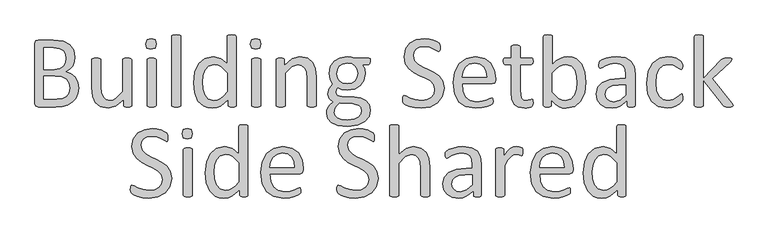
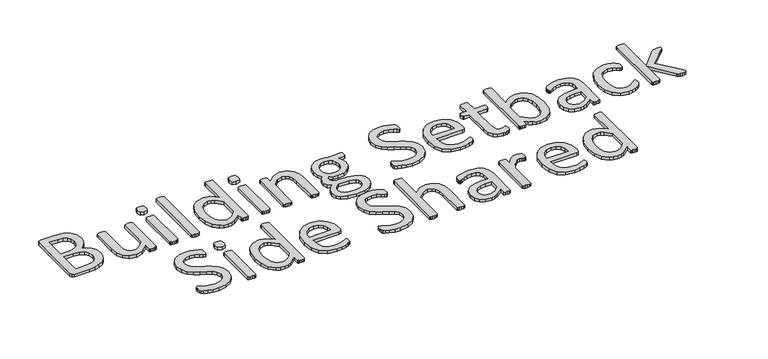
"""IFC4 building model written with IfcOpenShell, lengths in millimetres: proxy geometry, Marker-Setback Bldg Distance : Setback-Building-Side Shared."""

from ifc_helpers import new_model, si_unit, origin, origin_with_axes, place, context, project, spatial, polyline, outline, extrude, source, transform, mapped, element, save


def generic_models_37252d37(model_context):
    return source(origin(), model_context, "Body", "SweptSolid", [
        extrude(outline(polyline([(2948.652928, 103.9978258), (2946.2704862, 86.8080563), (2939.5755234, 72.6340358), (2929.2013467, 61.6265518), (2915.5098461, 53.6649743), (2899.1946438, 48.8397759), (2879.2907001, 47.2414289), (2827.2388718, 47.2414289), (2820.5740664, 49.6540281), (2817.4075299, 58.0981254), (2817.4075299, 237.1129882), (2820.6042239, 245.5570855), (2827.3595017, 247.9696848), (2872.9576272, 247.9696848), (2902.4818102, 244.5015734), (2921.6318166, 234.4289716), (2933.1821354, 218.2042418), (2937.0724517, 196.4606912), (2935.3534747, 182.6184031), (2930.3171738, 170.4046195), (2921.9333915, 160.3923327), (2910.3529152, 153.1545351), (2925.3110304, 147.5753993), (2937.4343416, 137.2313801), (2945.6371789, 122.5446823), (2948.652928, 103.9978258)]), holes=[polyline([(2910.0513403, 192.8417924), (2908.0307885, 206.1714031), (2901.6977155, 216.2741624), (2890.4188141, 222.6072354), (2871.9925875, 224.8087322), (2844.4286413, 224.8087322), (2844.4286413, 159.1860331), (2874.7670766, 159.1860331), (2891.4743262, 161.9303648), (2901.9992904, 169.2887924), (2908.1212609, 180.085174), (2910.0513403, 192.8417924)]), polyline([(2921.6318166, 103.7565658), (2918.7970125, 119.3178309), (2910.5037027, 130.5967323), (2896.812202, 137.5329551), (2876.0940062, 139.8852393), (2844.4286413, 139.8852393), (2844.4286413, 70.4023815), (2882.849284, 70.4023815), (2898.7121239, 72.5435633), (2910.6243326, 78.8766363), (2918.70654, 89.311128), (2921.6318166, 103.7565658)])]), origin_with_axes(), (0.0, 0.0, 1.0), 10.0),
        extrude(outline(polyline([(3106.9194374, 51.9459974), (3106.3464451, 49.8952881), (3104.3258932, 48.4477285), (3100.495892, 47.5430038), (3094.7358113, 47.2414289), (3088.5836833, 47.5430038), (3084.8441545, 48.4477285), (3082.9743901, 49.8952881), (3082.4918702, 51.9459974), (3082.4918702, 70.1008066), (3059.3610751, 49.7746581), (3036.23028, 43.3812701), (3013.1899574, 48.0255236), (2998.0508972, 60.6011971), (2989.7575873, 79.1178962), (2987.2545156, 104.8422355), (2987.2545156, 189.1625786), (2987.827508, 191.2132879), (2990.0290048, 192.7513199), (2994.2510534, 193.6862021), (3000.7650713, 193.927462), (3007.2790892, 193.6862021), (3011.4106654, 192.7814774), (3013.6121622, 191.2736029), (3014.275627, 189.1625786), (3014.275627, 109.0642841), (3015.9644465, 89.7333328), (3021.1515348, 77.3386043), (3029.957522, 69.3770268), (3042.382408, 66.5422227), (3051.527667, 68.2385816), (3060.6276897, 73.3276581), (3079.898326, 93.2617592), (3079.898326, 189.2228935), (3080.4713184, 191.2736029), (3082.6728152, 192.7814774), (3086.8345488, 193.6862021), (3093.4088817, 193.927462), (3099.9228996, 193.6862021), (3103.9941608, 192.7814774), (3106.1956576, 191.2736029), (3106.9194374, 189.2228935), (3106.9194374, 51.9459974)])), origin_with_axes(), (0.0, 0.0, 1.0), 10.0),
        extrude(outline(polyline([(3180.262454, 236.5701534), (3176.94513, 224.2357399), (3164.640874, 220.9485734), (3152.6381928, 224.1452674), (3149.3811838, 236.2082635), (3152.6985078, 248.5426771), (3165.0027639, 251.8298435), (3177.005445, 248.6331496), (3180.262454, 236.5701534)])), origin_with_axes(), (0.0, 0.0, 1.0), 10.0),
        extrude(outline(polyline([(3180.262454, 51.9459974), (3179.5989892, 49.8952881), (3177.4578074, 48.4477285), (3173.3865462, 47.5430038), (3166.6915833, 47.2414289), (3160.1172504, 47.5430038), (3155.9555167, 48.4477285), (3153.8143349, 49.8952881), (3153.2413426, 51.9459974), (3153.2413426, 189.2228935), (3153.8143349, 191.1831304), (3155.9555167, 192.7211624), (3160.1172504, 193.6258871), (3166.6915833, 193.927462), (3173.3865462, 193.6258871), (3177.4578074, 192.7211624), (3179.5989892, 191.1831304), (3180.262454, 189.2228935), (3180.262454, 51.9459974)])), origin_with_axes(), (0.0, 0.0, 1.0), 10.0),
        extrude(outline(polyline([(3253.6054705, 52.0063124), (3252.9420058, 49.955603), (3250.8008239, 48.477886), (3246.7295627, 47.5430038), (3240.0345999, 47.2414289), (3233.460267, 47.5430038), (3229.2985333, 48.477886), (3227.1573515, 49.955603), (3226.5843592, 52.0063124), (3226.5843592, 258.4644914), (3227.1573515, 260.6358307), (3229.2985333, 262.1738627), (3233.460267, 263.1087449), (3240.0345999, 263.4103198), (3246.7295627, 263.1087449), (3250.8008239, 262.1738627), (3252.9420058, 260.6358307), (3253.6054705, 258.4644914), (3253.6054705, 52.0063124)])), origin_with_axes(), (0.0, 0.0, 1.0), 10.0),
        extrude(outline(polyline([(3419.5922975, 52.0666274), (3419.0193052, 49.8651306), (3417.0590683, 48.3874135), (3413.410012, 47.5430038), (3407.8911913, 47.2414289), (3402.1612681, 47.5430038), (3398.4217393, 48.3270986), (3396.310715, 49.6841856), (3395.6472502, 51.7047375), (3395.6472502, 68.834192), (3373.2402348, 50.1063905), (3361.0792268, 45.0625502), (3347.8174704, 43.3812701), (3333.8545524, 44.8816053), (3322.1232887, 49.3826107), (3304.9033617, 65.6073405), (3295.2529647, 89.6730178), (3292.2070582, 118.774996), (3296.006902, 151.4958731), (3307.2254884, 176.4059601), (3325.6215575, 192.2386426), (3351.0141644, 197.7876208), (3372.9386599, 192.38943), (3392.5711861, 176.5567476), (3392.5711861, 258.4041764), (3393.1441785, 260.5152008), (3395.3456753, 262.0833903), (3399.5074089, 263.0182725), (3405.9007969, 263.4103198), (3412.5957598, 263.0182725), (3416.6670209, 262.0833903), (3418.8685177, 260.5453582), (3419.5922975, 258.4644914), (3419.5922975, 52.0666274)]), holes=[polyline([(3392.5711861, 149.0531164), (3373.2100773, 168.0824928), (3363.6652316, 172.9906243), (3353.7283386, 174.6266682), (3337.7448687, 170.0427297), (3327.0691171, 157.949576), (3321.097934, 140.9407515), (3319.2281696, 121.6701151), (3320.7963591, 101.2836516), (3326.2548648, 83.6113623), (3336.5687265, 71.2166337), (3352.7029839, 66.5422227), (3362.1724359, 67.8993098), (3371.5212579, 72.3927759), (3381.5033872, 80.5352983), (3392.5711861, 92.8998693), (3392.5711861, 149.0531164)])]), origin_with_axes(), (0.0, 0.0, 1.0), 10.0),
        extrude(outline(polyline([(3492.9353141, 236.5701534), (3489.6179901, 224.2357399), (3477.3137341, 220.9485734), (3465.3110529, 224.1452674), (3462.0540439, 236.2082635), (3465.3713679, 248.5426771), (3477.675624, 251.8298435), (3489.6783051, 248.6331496), (3492.9353141, 236.5701534)])), origin_with_axes(), (0.0, 0.0, 1.0), 10.0),
        extrude(outline(polyline([(3492.9353141, 51.9459974), (3492.2718493, 49.8952881), (3490.1306675, 48.4477285), (3486.0594063, 47.5430038), (3479.3644434, 47.2414289), (3472.7901105, 47.5430038), (3468.6283768, 48.4477285), (3466.487195, 49.8952881), (3465.9142027, 51.9459974), (3465.9142027, 189.2228935), (3466.487195, 191.1831304), (3468.6283768, 192.7211624), (3472.7901105, 193.6258871), (3479.3644434, 193.927462), (3486.0594063, 193.6258871), (3490.1306675, 192.7211624), (3492.2718493, 191.1831304), (3492.9353141, 189.2228935), (3492.9353141, 51.9459974)])), origin_with_axes(), (0.0, 0.0, 1.0), 10.0),
        extrude(outline(polyline([(3658.922141, 52.0063124), (3658.2586763, 49.955603), (3656.1174944, 48.477886), (3652.0462332, 47.5430038), (3645.4719003, 47.2414289), (3638.7769375, 47.5430038), (3634.7056763, 48.4477285), (3632.5644945, 49.8952881), (3631.9010297, 52.0063124), (3631.9010297, 132.5871266), (3630.1217378, 151.5260306), (3624.9648069, 163.9207591), (3616.1889772, 171.8823366), (3603.7339337, 174.6266682), (3585.428337, 167.9015478), (3566.2783306, 148.1483917), (3566.2783306, 52.0063124), (3565.6148659, 49.8952881), (3563.473684, 48.4477285), (3559.4024228, 47.5430038), (3552.70746, 47.2414289), (3546.1331271, 47.5430038), (3541.9713934, 48.4477285), (3539.8302116, 49.8952881), (3539.2572193, 51.9459974), (3539.2572193, 189.2228935), (3539.7397391, 191.2736029), (3541.699976, 192.7814774), (3545.4696623, 193.6862021), (3551.5614754, 193.927462), (3557.5326584, 193.6862021), (3561.2118723, 192.7814774), (3563.1117942, 191.2736029), (3563.6847865, 189.2228935), (3563.6847865, 171.0680843), (3586.7552666, 191.3640754), (3609.9463767, 197.7876208), (3632.9866993, 193.0830523), (3648.1257595, 180.5073788), (3656.4190693, 162.0811522), (3658.922141, 136.6885453), (3658.922141, 52.0063124)])), origin_with_axes(), (0.0, 0.0, 1.0), 10.0),
        extrude(outline(polyline([(3821.0488092, 184.2167501), (3819.5710922, 176.88848), (3815.8014059, 174.6266682), (3795.8371473, 174.6266682), (3803.4368349, 162.1414672), (3805.6081742, 147.9674467), (3801.7480154, 126.4953136), (3790.6802165, 110.6927886), (3773.5507619, 100.8312893), (3751.5659514, 97.4234929), (3735.3713791, 99.6853046), (3723.5194854, 105.3850703), (3718.694287, 99.0821548), (3716.8245225, 90.9094749), (3721.9512959, 81.9828578), (3735.5824816, 78.122699), (3772.6158797, 76.5545095), (3792.0373035, 73.629233), (3807.3271511, 66.1803328), (3817.4299104, 54.3284391), (3821.0488092, 38.0132368), (3817.0077055, 19.3457503), (3804.612977, 3.7844853), (3783.3217888, -6.8007938), (3752.7722511, -10.6609526), (3723.8512178, -7.7658335), (3704.309164, 0.135429), (3693.2413651, 12.1079526), (3689.8034112, 27.1565403), (3691.0398683, 37.1989846), (3694.8397121, 46.4271767), (3701.1727851, 54.7808015), (3709.8882998, 62.682064), (3697.6443587, 72.6038783), (3693.6635699, 85.5414417), (3697.7649886, 102.7010537), (3707.8979054, 116.2417669), (3700.2982178, 129.2094877), (3697.5237287, 146.7611471), (3701.5346749, 168.2031228), (3712.6929464, 184.2469076), (3729.8224009, 194.2893519), (3751.5659514, 197.7876208), (3763.3876877, 196.7622661), (3773.7015494, 193.927462), (3815.8014059, 193.927462), (3819.7218797, 191.5450203), (3821.0488092, 184.2167501)]), holes=[polyline([(3782.4472216, 147.7865018), (3780.411591, 160.6712895), (3774.3046992, 170.3744621), (3764.4431998, 176.4587357), (3751.1437466, 178.486827), (3737.6935059, 175.9535978), (3728.1637389, 169.017375), (3722.5242882, 158.8543007), (3720.6846813, 146.8214621), (3722.7203119, 134.2759461), (3728.8272037, 124.7461791), (3738.5982306, 118.7297598), (3751.6262664, 116.7242867), (3765.3479245, 119.1670434), (3774.968164, 125.9524788), (3780.6076147, 135.9647656), (3782.4472216, 147.7865018)]), polyline([(3794.0276979, 37.1688271), (3792.1579335, 45.6657), (3786.5486403, 51.9761549), (3766.3431217, 57.4949756), (3729.6716134, 58.8219052), (3721.3783036, 50.9809577), (3716.2515302, 43.86379), (3713.6579861, 37.1989846), (3712.9643638, 30.4135493), (3715.557908, 20.9817942), (3723.3385405, 14.158662), (3735.7634265, 10.0195464), (3752.2897312, 8.6398412), (3772.0730449, 11.022283), (3784.9201358, 17.3855134), (3791.9166736, 26.462918), (3794.0276979, 37.1688271)])]), origin_with_axes(), (0.0, 0.0, 1.0), 10.0),
        extrude(outline(polyline([(4041.077859, 103.153416), (4035.8907706, 77.8211241), (4021.4453327, 58.9726927), (3999.7017822, 47.3017439), (3972.8013008, 43.3812701), (3954.1036567, 44.8891447), (3938.7233367, 48.598516), (3927.3841203, 53.152297), (3921.0208898, 57.1632432), (3918.3971881, 61.8074967), (3917.5527784, 69.7389167), (3917.8543533, 75.6196273), (3918.7892355, 79.3893136), (3920.357425, 81.4098655), (3922.5589218, 81.9828578), (3928.7412073, 79.5702586), (3939.0249116, 74.3228552), (3954.1338142, 69.0151369), (3974.5504352, 66.5422227), (3990.6243776, 68.894507), (4003.1397361, 75.5291549), (4011.2219435, 86.0239615), (4014.0567476, 100.197982), (4010.0759589, 114.9148373), (3999.6113097, 125.6207464), (3984.8039819, 134.0648437), (3967.7348424, 141.9057912), (3950.7561753, 150.7419358), (3936.0091625, 162.1414672), (3925.4540409, 177.5821023), (3921.4129372, 198.7526605), (3926.0270332, 221.4009358), (3938.8439666, 238.0478704), (3958.3860204, 248.3014172), (3982.8739025, 251.8298435), (3996.4146157, 250.5330714), (4009.2315491, 247.0951175), (4019.9676157, 242.3000766), (4026.1499012, 238.0177129), (4028.0799806, 235.5146412), (4028.8640754, 233.282987), (4029.3465952, 229.9958205), (4029.4973827, 225.0499921), (4029.2561227, 219.9232187), (4028.5625004, 216.1836899), (4027.2355709, 213.9520356), (4025.275334, 213.2282559), (4019.8469857, 215.5805401), (4010.7997386, 220.8581009), (3998.1335927, 226.2261342), (3981.7279179, 228.6688909), (3966.9809051, 226.4673941), (3956.6067284, 220.616841), (3950.4847579, 211.9314838), (3948.4340486, 201.2858897), (3952.3545223, 186.7499793), (3962.8191715, 175.9535978), (3977.6868142, 167.3285555), (3994.6654813, 159.4272931), (4011.6743058, 150.6514634), (4026.5419486, 139.372562), (4037.0669127, 124.0525569), (4041.077859, 103.153416)])), origin_with_axes(), (0.0, 0.0, 1.0), 10.0),
        extrude(outline(polyline([(4195.4842096, 127.7619282), (4192.4986181, 119.2575159), (4185.6528678, 116.7242867), (4095.1200817, 116.7242867), (4097.3818935, 94.4077438), (4104.8911086, 77.3989193), (4118.5826092, 66.4819078), (4139.2103326, 62.682064), (4156.3397871, 64.4613559), (4169.367823, 68.4723021), (4178.3849126, 72.4832483), (4183.7227884, 74.2625403), (4185.5925528, 73.7498629), (4186.8893249, 72.2419884), (4187.5527897, 69.4373418), (4187.7638921, 65.0343482), (4187.6131046, 61.8074967), (4187.2210573, 59.36474), (4186.46712, 57.4045032), (4185.1100329, 55.7458412), (4180.194362, 52.8205646), (4169.6090829, 48.6588309), (4154.5303377, 45.0097746), (4136.2548985, 43.3812701), (4106.7910305, 48.2064686), (4085.5299997, 62.561434), (4072.5019639, 86.4763239), (4068.0989703, 119.8606657), (4072.7130663, 152.4307553), (4086.0125196, 176.9186375), (4107.0021329, 192.38943), (4134.5660791, 197.7876208), (4162.3109702, 192.570375), (4181.1594017, 178.5169845), (4192.0160982, 157.7987886), (4195.4842096, 132.4061817), (4195.4842096, 127.7619282)]), holes=[polyline([(4168.4630983, 136.0250805), (4166.5104008, 153.7350668), (4159.8078985, 167.1777681), (4148.5214577, 175.6595622), (4132.8169446, 178.486827), (4116.7430023, 174.9885581), (4105.1926835, 165.6698936), (4097.9850433, 152.1291804), (4095.1200817, 136.0250805), (4168.4630983, 136.0250805)])]), origin_with_axes(), (0.0, 0.0, 1.0), 10.0),
        extrude(outline(polyline([(4307.4288139, 61.1138745), (4306.825664, 53.5745019), (4304.9860571, 49.4730832), (4301.3068433, 47.000169), (4295.7277076, 45.1002471), (4289.0629022, 43.86379), (4282.036207, 43.3812701), (4263.6702953, 46.3065467), (4251.1549368, 55.1426914), (4244.0377691, 70.1309641), (4241.8061148, 91.5729397), (4241.8061148, 174.6266682), (4223.4703607, 174.6266682), (4219.9419343, 176.88848), (4218.6451622, 184.2167501), (4219.0070521, 188.7102162), (4219.9419343, 191.7561227), (4221.4799663, 193.4449422), (4223.5909906, 193.927462), (4241.8061148, 193.927462), (4241.8061148, 227.5229063), (4242.3791071, 229.5434582), (4244.520289, 231.2021201), (4248.6820226, 232.2274748), (4255.2563555, 232.5290497), (4261.9513184, 232.2274748), (4266.0225796, 231.2021201), (4268.1637614, 229.5434582), (4268.8272262, 227.5229063), (4268.8272262, 193.927462), (4302.6036154, 193.927462), (4304.6241672, 193.4449422), (4306.1621993, 191.7561227), (4307.1272389, 188.7102162), (4307.4288139, 184.2167501), (4306.1018843, 176.88848), (4302.6036154, 174.6266682), (4268.8272262, 174.6266682), (4268.8272262, 95.9759333), (4272.8381724, 73.9911229), (4278.4399262, 68.4044478), (4287.2232953, 66.5422227), (4293.2246359, 67.235845), (4297.8990469, 68.6834045), (4301.4274733, 70.1611216), (4304.0511749, 70.8849013), (4306.4637742, 69.0151369), (4307.1272389, 65.9993879), (4307.4288139, 61.1138745)])), origin_with_axes(), (0.0, 0.0, 1.0), 10.0),
        extrude(outline(polyline([(4465.6953233, 122.3938949), (4461.8351645, 89.5222304), (4450.4657907, 64.6121434), (4432.0094065, 48.8397759), (4406.9485321, 43.3812701), (4394.8855359, 44.7081997), (4384.0288394, 49.0207208), (4373.4134028, 56.5299359), (4362.1948164, 67.4469474), (4362.1948164, 51.7047375), (4361.5313516, 49.6841856), (4359.3901698, 48.3270986), (4355.7109559, 47.5430038), (4350.0715052, 47.2414289), (4344.522527, 47.5430038), (4340.7528407, 48.3874135), (4338.7926038, 49.8651306), (4338.310084, 52.0063124), (4338.310084, 258.4644914), (4338.8830763, 260.6358307), (4341.0242581, 262.1738627), (4345.1859918, 263.1087449), (4351.7603247, 263.4103198), (4358.4552875, 263.1087449), (4362.5265487, 262.1738627), (4364.6677306, 260.6056732), (4365.3311954, 258.4644914), (4365.3311954, 174.6869832), (4377.0624591, 185.4532072), (4388.190573, 192.570375), (4399.0774271, 196.5511637), (4410.5674309, 197.7876208), (4424.3267859, 196.2646675), (4435.9298803, 191.6958077), (4453.0593348, 175.3806055), (4462.6795742, 151.4054006), (4465.6953233, 122.3938949)]), holes=[polyline([(4438.6742119, 119.4384608), (4437.1060224, 139.9757118), (4431.6173592, 157.6178436), (4421.27334, 169.9522572), (4405.1993976, 174.6266682), (4395.7902606, 173.2695811), (4386.3509661, 168.7459576), (4376.3688368, 160.6335927), (4365.3311954, 148.1483917), (4365.3311954, 92.1157746), (4384.8129341, 73.0863981), (4394.2974648, 68.1782666), (4404.1740429, 66.5422227), (4420.0670404, 71.1563188), (4430.8031069, 83.3399449), (4436.8044475, 100.3487694), (4438.6742119, 119.4384608)])]), origin_with_axes(), (0.0, 0.0, 1.0), 10.0),
        extrude(outline(polyline([(4612.3813564, 51.8856824), (4611.0544268, 49.0810358), (4607.435528, 47.6937913), (4600.6802502, 47.2414289), (4593.8344998, 47.6937913), (4590.1251285, 49.0810358), (4588.9791439, 51.8856824), (4588.9791439, 65.758128), (4568.6529954, 49.7143431), (4557.1026766, 44.9645384), (4544.888893, 43.3812701), (4524.9547919, 46.2462317), (4509.7855742, 54.5395416), (4500.0447048, 67.8691523), (4496.5765934, 85.8430166), (4501.3716344, 106.289795), (4515.12345, 120.7050754), (4537.0479455, 129.2999602), (4566.2403962, 132.1649218), (4585.3602451, 132.1649218), (4585.3602451, 143.6850831), (4583.6714256, 158.7638283), (4578.2430773, 169.6808398), (4568.5625229, 176.2551727), (4553.9361401, 178.486827), (4537.1987329, 176.0742277), (4524.2310121, 170.7665094), (4514.9123476, 165.4587911), (4509.3633693, 163.0461919), (4507.19203, 163.6794992), (4505.593683, 165.6095786), (4504.5984859, 168.9269025), (4504.296911, 173.3600536), (4504.8397458, 179.6931266), (4507.4936049, 184.1262777), (4514.7314026, 188.6499012), (4526.5531388, 193.1132098), (4541.1795217, 196.4606912), (4557.1931491, 197.7876208), (4582.8270159, 194.3798244), (4599.9263129, 184.4278526), (4609.4259224, 168.1729653), (4612.3813564, 145.4945325), (4612.3813564, 51.8856824)]), holes=[polyline([(4585.3602451, 112.8641279), (4563.8881119, 112.8641279), (4545.9745626, 111.084836), (4533.3385742, 105.8374327), (4525.949989, 97.5139653), (4523.5977048, 86.3255364), (4525.2865242, 76.584667), (4530.3529826, 69.0754519), (4538.4653475, 64.280411), (4549.2918866, 62.682064), (4567.6276407, 67.7786798), (4585.3602451, 83.3701024), (4585.3602451, 112.8641279)])]), origin_with_axes(), (0.0, 0.0, 1.0), 10.0),
        extrude(outline(polyline([(4755.2072308, 74.98632), (4755.0564433, 70.7642714), (4754.5136085, 67.7485223), (4753.6088838, 65.3057656), (4751.1962846, 61.6868668), (4744.7124241, 55.8061562), (4734.4287199, 49.5635557), (4722.0339914, 45.1002471), (4708.1615458, 43.3812701), (4681.9848442, 48.3874135), (4662.8951528, 63.0137964), (4651.163889, 86.5969538), (4647.1227853, 118.835311), (4652.0686137, 154.5719371), (4665.6093269, 179.0296618), (4685.8450029, 193.1735248), (4711.0566649, 197.7876208), (4723.7831258, 196.4305337), (4735.1223422, 192.8719499), (4744.3505343, 187.8054915), (4750.2010874, 182.8898206), (4752.7041591, 179.6629691), (4753.8501437, 177.0995824), (4754.4532935, 173.9330459), (4754.604081, 169.4998948), (4753.2469939, 161.4780024), (4749.9598275, 159.1860331), (4744.7425816, 161.5986324), (4737.2936815, 166.9063507), (4726.3465125, 172.214069), (4711.2376098, 174.6266682), (4695.3672305, 171.1283993), (4683.7038211, 160.6335927), (4676.5338778, 143.4739807), (4674.1438967, 119.9812957), (4676.6168109, 96.6393981), (4683.9149236, 79.8718335), (4695.7668173, 69.8293892), (4711.8407596, 66.5422227), (4726.8893473, 69.5881293), (4738.1079338, 76.2830921), (4746.0996687, 82.8875825), (4751.1661271, 85.8430166), (4752.945419, 85.2700243), (4754.2421911, 83.3399449), (4754.9961284, 79.901991), (4755.2072308, 74.98632)])), origin_with_axes(), (0.0, 0.0, 1.0), 10.0),
        extrude(outline(polyline([(4905.7534227, 52.1269423), (4905.1201154, 49.9857605), (4903.0392486, 48.4477285), (4898.9679874, 47.5430038), (4892.303182, 47.2414289), (4885.4272742, 47.4826888), (4880.8433356, 48.2366261), (4877.8275866, 49.7445006), (4875.7165623, 52.1269423), (4816.9697711, 128.0635031), (4816.9697711, 51.9459974), (4816.3063063, 49.8952881), (4814.1651244, 48.4477285), (4810.0938633, 47.5430038), (4803.3989004, 47.2414289), (4796.8245675, 47.5430038), (4792.6628338, 48.477886), (4790.521652, 49.955603), (4789.9486597, 52.0063124), (4789.9486597, 258.4644914), (4790.521652, 260.6358307), (4792.6628338, 262.1738627), (4796.8245675, 263.1087449), (4803.3989004, 263.4103198), (4810.0938633, 263.1087449), (4814.1651244, 262.1738627), (4816.3063063, 260.6056732), (4816.9697711, 258.4041764), (4816.9697711, 131.561772), (4870.6501039, 188.6197437), (4873.3341205, 191.1228154), (4876.7117595, 192.7814774), (4881.356013, 193.6862021), (4887.8398734, 193.927462), (4894.4745213, 193.6862021), (4898.7870424, 192.9322649), (4901.1694842, 191.5751778), (4901.8932639, 189.3435235), (4900.8377518, 185.6944672), (4897.3093254, 181.442261), (4843.9908824, 131.7427169), (4901.9535789, 59.304425), (4904.8788555, 55.1125339), (4905.7534227, 52.1269423)])), origin_with_axes(), (0.0, 0.0, 1.0), 10.0),
        extrude(outline(polyline([(3226.5843592, -166.3294418), (3221.3972708, -191.6617337), (3206.951833, -210.5101651), (3185.2082824, -222.1811139), (3158.307801, -226.1015877), (3139.610157, -224.5937131), (3124.2298369, -220.8843418), (3112.8906205, -216.3305608), (3106.52739, -212.3196146), (3103.9036884, -207.6753611), (3103.0592786, -199.7439411), (3103.3608536, -193.8632305), (3104.2957358, -190.0935442), (3105.8639253, -188.0729923), (3108.065422, -187.5), (3114.2477076, -189.9125992), (3124.5314118, -195.1600026), (3139.6403145, -200.4677209), (3160.0569354, -202.9406351), (3176.1308778, -200.5883508), (3188.6462363, -193.9537029), (3196.7284437, -183.4588963), (3199.5632478, -169.2848758), (3195.5824591, -154.5680205), (3185.1178099, -143.8621114), (3170.3104822, -135.4180141), (3153.2413426, -127.5770666), (3136.2626755, -118.740922), (3121.5156628, -107.3413906), (3110.9605411, -91.9007555), (3106.9194374, -70.7301973), (3111.5335334, -48.081922), (3124.3504668, -31.4349874), (3143.8925206, -21.1814406), (3168.3804028, -17.6530143), (3181.921116, -18.9497864), (3194.7380494, -22.3877403), (3205.4741159, -27.1827812), (3211.6564015, -31.4651449), (3213.5864808, -33.9682166), (3214.3705756, -36.1998708), (3214.8530954, -39.4870373), (3215.0038829, -44.4328657), (3214.762623, -49.5596391), (3214.0690007, -53.2991679), (3212.7420711, -55.5308222), (3210.7818342, -56.2546019), (3205.353486, -53.9023177), (3196.3062389, -48.6247569), (3183.6400929, -43.2567236), (3167.2344181, -40.8139669), (3152.4874054, -43.0154637), (3142.1132287, -48.8660168), (3135.9912581, -57.551374), (3133.9405488, -68.1969681), (3137.8610225, -82.7328785), (3148.3256717, -93.52926), (3163.1933144, -102.1543023), (3180.1719815, -110.0555647), (3197.1808061, -118.8313944), (3212.0484488, -130.1102958), (3222.573413, -145.4303009), (3226.5843592, -166.3294418)])), origin_with_axes(), (0.0, 0.0, 1.0), 10.0),
        extrude(outline(polyline([(3288.3468994, -217.5368604), (3287.6834347, -219.5875697), (3285.5422528, -221.0351293), (3281.4709916, -221.939854), (3274.7760288, -222.2414289), (3268.2016959, -221.939854), (3264.0399622, -221.0351293), (3261.8987804, -219.5875697), (3261.3257881, -217.5368604), (3261.3257881, -80.2599643), (3261.8987804, -78.2997274), (3264.0399622, -76.7616954), (3268.2016959, -75.8569707), (3274.7760288, -75.5553958), (3281.4709916, -75.8569707), (3285.5422528, -76.7616954), (3287.6834347, -78.2997274), (3288.3468994, -80.2599643), (3288.3468994, -217.5368604)])), origin_with_axes(), (0.0, 0.0, 1.0), 10.0),
        extrude(outline(polyline([(3288.3468994, -32.9127044), (3285.0295755, -45.2471179), (3272.7253194, -48.5342844), (3260.7226383, -45.3375904), (3257.4656293, -33.2745943), (3260.7829533, -20.9401807), (3273.0872093, -17.6530143), (3285.0898905, -20.8497082), (3288.3468994, -32.9127044)])), origin_with_axes(), (0.0, 0.0, 1.0), 10.0),
        extrude(outline(polyline([(3454.3337264, -217.4162304), (3453.7607341, -219.6177272), (3451.8004972, -221.0954443), (3448.1514409, -221.939854), (3442.6326202, -222.2414289), (3436.902697, -221.939854), (3433.1631682, -221.1557592), (3431.0521439, -219.7986722), (3430.3886791, -217.7781203), (3430.3886791, -200.6486658), (3407.9816637, -219.3764673), (3395.8206557, -224.4203076), (3382.5588993, -226.1015877), (3368.5959813, -224.6012525), (3356.8647176, -220.1002471), (3339.6447906, -203.8755173), (3329.9943936, -179.80984), (3326.9484871, -150.7078618), (3330.7483309, -117.9869847), (3341.9669173, -93.0768977), (3360.3629864, -77.2442152), (3385.7555933, -71.695237), (3407.6800888, -77.0934278), (3427.312615, -92.9261102), (3427.312615, -11.0786814), (3427.8856074, -8.967657), (3430.0871042, -7.3994675), (3434.2488378, -6.4645853), (3440.6422258, -6.072538), (3447.3371887, -6.4645853), (3451.4084498, -7.3994675), (3453.6099466, -8.9374996), (3454.3337264, -11.0183664), (3454.3337264, -217.4162304)]), holes=[polyline([(3427.312615, -120.4297414), (3407.9515062, -101.400365), (3398.4066605, -96.4922335), (3388.4697675, -94.8561896), (3372.4862976, -99.4401281), (3361.810546, -111.5332818), (3355.8393629, -128.5421063), (3353.9695985, -147.8127427), (3355.537788, -168.1992062), (3360.9962937, -185.8714955), (3371.3101554, -198.2662241), (3387.4444128, -202.9406351), (3396.9138648, -201.583548), (3406.2626868, -197.0900819), (3416.2448161, -188.9475595), (3427.312615, -176.5829885), (3427.312615, -120.4297414)])]), origin_with_axes(), (0.0, 0.0, 1.0), 10.0),
        extrude(outline(polyline([(3620.3205534, -141.7209296), (3617.3349618, -150.2253419), (3610.4892115, -152.7585711), (3519.9564254, -152.7585711), (3522.2182372, -175.075114), (3529.7274523, -192.0839385), (3543.418953, -203.00095), (3564.0466764, -206.8007938), (3581.1761309, -205.0215019), (3594.2041667, -201.0105557), (3603.2212563, -196.9996095), (3608.5591321, -195.2203175), (3610.4288965, -195.7329949), (3611.7256686, -197.2408694), (3612.3891334, -200.045516), (3612.6002358, -204.4485096), (3612.4494484, -207.6753611), (3612.057401, -210.1181178), (3611.3034638, -212.0783546), (3609.9463767, -213.7370166), (3605.0307058, -216.6622932), (3594.4454266, -220.8240269), (3579.3666815, -224.4730832), (3561.0912423, -226.1015877), (3531.6273742, -221.2763892), (3510.3663435, -206.9214238), (3497.3383077, -183.0065339), (3492.9353141, -149.6221921), (3497.5494101, -117.0521025), (3510.8488634, -92.5642203), (3531.8384767, -77.0934278), (3559.4024228, -71.695237), (3587.147314, -76.9124828), (3605.9957455, -90.9658733), (3616.852442, -111.6840692), (3620.3205534, -137.0766761), (3620.3205534, -141.7209296)]), holes=[polyline([(3593.299442, -133.4577773), (3591.3467445, -115.747791), (3584.6442423, -102.3050897), (3573.3578015, -93.8232956), (3557.6532884, -90.9960308), (3541.579346, -94.4942997), (3530.0290272, -103.8129642), (3522.821387, -117.3536774), (3519.9564254, -133.4577773), (3593.299442, -133.4577773)])]), origin_with_axes(), (0.0, 0.0, 1.0), 10.0),
        extrude(outline(polyline([(3844.2097618, -166.3294418), (3839.0226735, -191.6617337), (3824.5772356, -210.5101651), (3802.8336851, -222.1811139), (3775.9332037, -226.1015877), (3757.2355596, -224.5937131), (3741.8552396, -220.8843418), (3730.5160232, -216.3305608), (3724.1527927, -212.3196146), (3721.529091, -207.6753611), (3720.6846813, -199.7439411), (3720.9862562, -193.8632305), (3721.9211384, -190.0935442), (3723.4893279, -188.0729923), (3725.6908247, -187.5), (3731.8731102, -189.9125992), (3742.1568145, -195.1600026), (3757.2657171, -200.4677209), (3777.6823381, -202.9406351), (3793.7562805, -200.5883508), (3806.271639, -193.9537029), (3814.3538464, -183.4588963), (3817.1886505, -169.2848758), (3813.2078618, -154.5680205), (3802.7432126, -143.8621114), (3787.9358848, -135.4180141), (3770.8667453, -127.5770666), (3753.8880782, -118.740922), (3739.1410654, -107.3413906), (3728.5859438, -91.9007555), (3724.5448401, -70.7301973), (3729.1589361, -48.081922), (3741.9758695, -31.4349874), (3761.5179233, -21.1814406), (3786.0058054, -17.6530143), (3799.5465186, -18.9497864), (3812.363452, -22.3877403), (3823.0995186, -27.1827812), (3829.2818041, -31.4651449), (3831.2118835, -33.9682166), (3831.9959783, -36.1998708), (3832.4784981, -39.4870373), (3832.6292855, -44.4328657), (3832.3880256, -49.5596391), (3831.6944033, -53.2991679), (3830.3674738, -55.5308222), (3828.4072369, -56.2546019), (3822.9788886, -53.9023177), (3813.9316415, -48.6247569), (3801.2654956, -43.2567236), (3784.8598208, -40.8139669), (3770.112808, -43.0154637), (3759.7386313, -48.8660168), (3753.6166608, -57.551374), (3751.5659514, -68.1969681), (3755.4864252, -82.7328785), (3765.9510744, -93.52926), (3780.8187171, -102.1543023), (3797.7973842, -110.0555647), (3814.8062087, -118.8313944), (3829.6738515, -130.1102958), (3840.1988156, -145.4303009), (3844.2097618, -166.3294418)])), origin_with_axes(), (0.0, 0.0, 1.0), 10.0),
        extrude(outline(polyline([(3998.6161125, -217.4765454), (3997.9526477, -219.5272548), (3995.8114659, -221.0049718), (3991.7402047, -221.939854), (3985.1658718, -222.2414289), (3978.470909, -221.939854), (3974.3996478, -221.0351293), (3972.2584659, -219.5875697), (3971.5950012, -217.4765454), (3971.5950012, -136.8957312), (3969.8157092, -117.9568272), (3964.6587784, -105.5620987), (3955.8829487, -97.6005212), (3943.4279051, -94.8561896), (3925.1223085, -101.58131), (3905.9723021, -121.3344661), (3905.9723021, -217.4765454), (3905.3088373, -219.5875697), (3903.1676555, -221.0351293), (3899.0963943, -221.939854), (3892.4014315, -222.2414289), (3885.8270986, -221.939854), (3881.6653649, -221.0049718), (3879.5241831, -219.5272548), (3878.9511908, -217.4765454), (3878.9511908, -11.0183664), (3879.5241831, -8.8470271), (3881.6653649, -7.3089951), (3885.8270986, -6.3741129), (3892.4014315, -6.072538), (3899.0963943, -6.3741129), (3903.1676555, -7.3089951), (3905.3088373, -8.8771846), (3905.9723021, -11.0183664), (3905.9723021, -94.4942997), (3927.6856952, -77.3045302), (3949.7006631, -71.695237), (3972.7409858, -76.3998055), (3987.8498885, -88.975479), (3996.1130408, -107.4017056), (3998.6161125, -132.9149424), (3998.6161125, -217.4765454)])), origin_with_axes(), (0.0, 0.0, 1.0), 10.0),
        extrude(outline(polyline([(4153.0224632, -217.5971754), (4151.6955336, -220.401822), (4148.0766348, -221.7890665), (4141.3213569, -222.2414289), (4134.4756066, -221.7890665), (4130.7662353, -220.401822), (4129.6202507, -217.5971754), (4129.6202507, -203.7247298), (4109.2941022, -219.7685147), (4097.7437833, -224.5183194), (4085.5299997, -226.1015877), (4065.5958986, -223.2366261), (4050.426681, -214.9433162), (4040.6858116, -201.6137055), (4037.2177002, -183.6398412), (4042.0127412, -163.1930628), (4055.7645568, -148.7777824), (4077.6890523, -140.1828976), (4106.8815029, -137.317936), (4126.0013518, -137.317936), (4126.0013518, -125.7977747), (4124.3125324, -110.7190295), (4118.8841841, -99.802018), (4109.2036297, -93.2276851), (4094.5772469, -90.9960308), (4077.8398397, -93.4086301), (4064.8721188, -98.7163484), (4055.5534543, -104.0240667), (4050.0044761, -106.4366659), (4047.8331368, -105.8033586), (4046.2347898, -103.8732792), (4045.2395926, -100.5559553), (4044.9380177, -96.1228042), (4045.4808525, -89.7897312), (4048.1347117, -85.3565801), (4055.3725094, -80.8329566), (4067.1942456, -76.369648), (4081.8206284, -73.0221666), (4097.8342558, -71.695237), (4123.4681226, -75.1030334), (4140.5674197, -85.0550052), (4150.0670291, -101.3098925), (4153.0224632, -123.9883253), (4153.0224632, -217.5971754)]), holes=[polyline([(4126.0013518, -156.6187299), (4104.5292187, -156.6187299), (4086.6156694, -158.3980218), (4073.9796809, -163.6454251), (4066.5910958, -171.9688925), (4064.2388116, -183.1573214), (4065.927631, -192.8981908), (4070.9940894, -200.4074059), (4079.1064543, -205.2024468), (4089.9329933, -206.8007938), (4108.2687475, -201.704178), (4126.0013518, -186.1127554), (4126.0013518, -156.6187299)])]), origin_with_axes(), (0.0, 0.0, 1.0), 10.0),
        extrude(outline(polyline([(4276.5475437, -87.1358721), (4276.3967563, -92.6245353), (4275.7936065, -96.1831192), (4274.6777793, -98.203671), (4272.8080149, -98.8972933), (4269.8827383, -98.203671), (4265.9924221, -96.8164265), (4261.1370661, -95.4894969), (4255.3166705, -94.8561896), (4247.9582429, -96.5148516), (4240.3887128, -101.9431998), (4232.0954029, -111.9554866), (4222.505321, -127.2453343), (4222.505321, -217.5368604), (4221.8418562, -219.5875697), (4219.7006744, -221.0351293), (4215.6294132, -221.939854), (4208.9344503, -222.2414289), (4202.3601174, -221.939854), (4198.1983838, -221.0351293), (4196.0572019, -219.5875697), (4195.4842096, -217.5368604), (4195.4842096, -80.2599643), (4195.9667295, -78.2092549), (4197.9269663, -76.7013804), (4201.6966526, -75.7966557), (4207.7884657, -75.5553958), (4213.7596488, -75.7966557), (4217.4388626, -76.7013804), (4219.3387845, -78.2092549), (4219.9117768, -80.2599643), (4219.9117768, -100.2845379), (4230.3462685, -85.9898874), (4239.604618, -77.2743727), (4248.2296603, -72.9015366), (4256.88486, -71.695237), (4261.2878536, -71.9063394), (4266.4749419, -72.7205917), (4271.3604554, -74.0776787), (4274.4365194, -75.5553958), (4275.642819, -76.9426403), (4276.1856538, -78.6616173), (4276.4872287, -81.7075238), (4276.5475437, -87.1358721)])), origin_with_axes(), (0.0, 0.0, 1.0), 10.0),
        extrude(outline(polyline([(4427.0937356, -141.7209296), (4424.1081441, -150.2253419), (4417.2623938, -152.7585711), (4326.7296077, -152.7585711), (4328.9914195, -175.075114), (4336.5006346, -192.0839385), (4350.1921352, -203.00095), (4370.8198586, -206.8007938), (4387.9493131, -205.0215019), (4400.977349, -201.0105557), (4409.9944386, -196.9996095), (4415.3323144, -195.2203175), (4417.2020788, -195.7329949), (4418.4988509, -197.2408694), (4419.1623157, -200.045516), (4419.3734181, -204.4485096), (4419.2226306, -207.6753611), (4418.8305833, -210.1181178), (4418.076646, -212.0783546), (4416.7195589, -213.7370166), (4411.803888, -216.6622932), (4401.2186089, -220.8240269), (4386.1398637, -224.4730832), (4367.8644245, -226.1015877), (4338.4005565, -221.2763892), (4317.1395257, -206.9214238), (4304.1114899, -183.0065339), (4299.7084963, -149.6221921), (4304.3225923, -117.0521025), (4317.6220456, -92.5642203), (4338.6116589, -77.0934278), (4366.1756051, -71.695237), (4393.9204962, -76.9124828), (4412.7689277, -90.9658733), (4423.6256242, -111.6840692), (4427.0937356, -137.0766761), (4427.0937356, -141.7209296)]), holes=[polyline([(4400.0726243, -133.4577773), (4398.1199268, -115.747791), (4391.4174245, -102.3050897), (4380.1309837, -93.8232956), (4364.4264706, -90.9960308), (4348.3525283, -94.4942997), (4336.8022095, -103.8129642), (4329.5945693, -117.3536774), (4326.7296077, -133.4577773), (4400.0726243, -133.4577773)])]), origin_with_axes(), (0.0, 0.0, 1.0), 10.0),
        extrude(outline(polyline([(4585.3602451, -217.4162304), (4584.7872527, -219.6177272), (4582.8270159, -221.0954443), (4579.1779595, -221.939854), (4573.6591388, -222.2414289), (4567.9292156, -221.939854), (4564.1896868, -221.1557592), (4562.0786625, -219.7986722), (4561.4151977, -217.7781203), (4561.4151977, -200.6486658), (4539.0081824, -219.3764673), (4526.8471744, -224.4203076), (4513.585418, -226.1015877), (4499.6224999, -224.6012525), (4487.8912362, -220.1002471), (4470.6713092, -203.8755173), (4461.0209123, -179.80984), (4457.9750058, -150.7078618), (4461.7748495, -117.9869847), (4472.993436, -93.0768977), (4491.3895051, -77.2442152), (4516.782112, -71.695237), (4538.7066075, -77.0934278), (4558.3391337, -92.9261102), (4558.3391337, -11.0786814), (4558.912126, -8.967657), (4561.1136228, -7.3994675), (4565.2753565, -6.4645853), (4571.6687444, -6.072538), (4578.3637073, -6.4645853), (4582.4349685, -7.3994675), (4584.6364653, -8.9374996), (4585.3602451, -11.0183664), (4585.3602451, -217.4162304)]), holes=[polyline([(4558.3391337, -120.4297414), (4538.9780249, -101.400365), (4529.4331792, -96.4922335), (4519.4962861, -94.8561896), (4503.5128162, -99.4401281), (4492.8370646, -111.5332818), (4486.8658815, -128.5421063), (4484.9961171, -147.8127427), (4486.5643066, -168.1992062), (4492.0228124, -185.8714955), (4502.3366741, -198.2662241), (4518.4709314, -202.9406351), (4527.9403834, -201.583548), (4537.2892054, -197.0900819), (4547.2713347, -188.9475595), (4558.3391337, -176.5829885), (4558.3391337, -120.4297414)])]), origin_with_axes(), (0.0, 0.0, 1.0), 10.0),
    ])


if __name__ == "__main__":
    model = new_model("IFC4")
    model_context = context("Model", 3, world=origin())
    ifc_project = project(units=[si_unit("LENGTHUNIT", "METRE", prefix="MILLI")], contexts=[model_context])
    site = spatial("IfcSite", under=ifc_project)
    building = spatial("IfcBuilding", under=site)
    placement = place(None, origin())
    generic_models_shape = generic_models_37252d37(model_context)
    element("IfcBuildingElementProxy", 1, Name="Marker-Setback Bldg Distance : Setback-Building-Side Shared", ObjectType="Marker-Setback Bldg Distance : Setback-Building-Side Shared", at=placement, inside=building, context=model_context, shape_type="MappedRepresentation", body=[
        mapped(generic_models_shape, transform((0.0, 0.0, 0.0), x_axis=(1.0, 0.0, 0.0), y_axis=(0.0, 1.0, 0.0), z_axis=(0.0, 0.0, 1.0))),
    ])
    save(model, "model.ifc")
